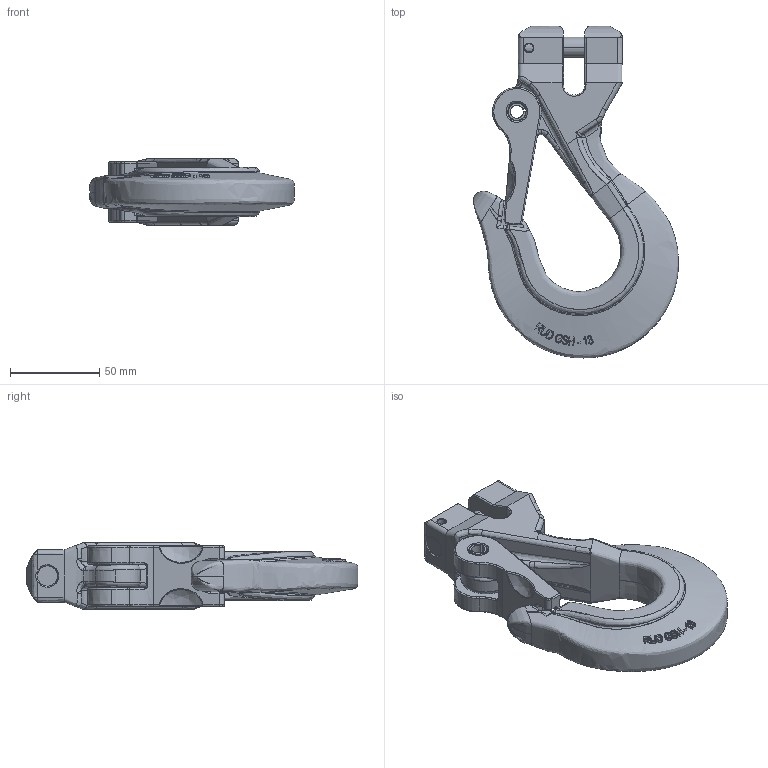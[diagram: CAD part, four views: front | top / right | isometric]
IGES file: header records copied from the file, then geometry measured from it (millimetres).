
Start section: SolidWorks IGES file using analytic representation for surfaces
Global section: file name: R:\Projetos\André.Siqueira\COMPONENTES PADRÃO\4-GSH\GSH-13\GSH-13.IGS; native system: SolidWorks 2012; preprocessor: SolidWorks 2012; author: andre.siqueira; date: 130410.111201; units: millimetre
Bounding box: 115.02 x 186.39 x 37.34 mm (x, y, z)
Surface area: 50436.4 mm2 (no closed solid volume)
Topology: 0 solids, 0 shells, 501 faces, 6733 edges, 6702 vertices
Faces by surface type: bspline 366, revolution 135
